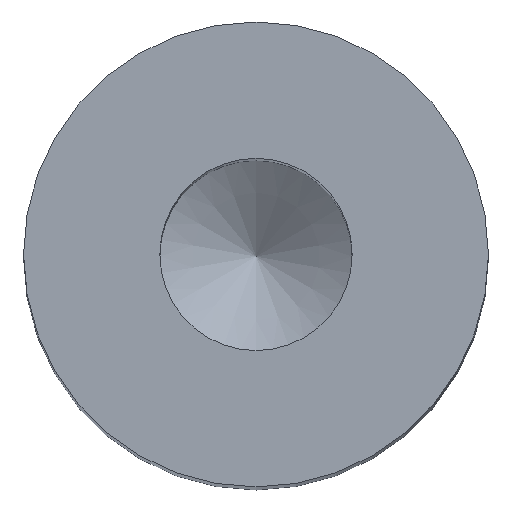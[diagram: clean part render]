
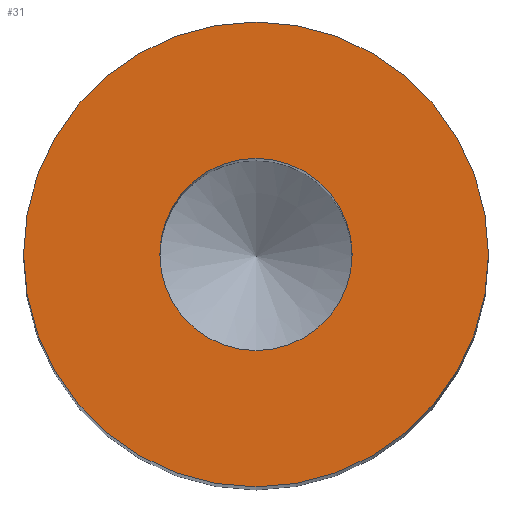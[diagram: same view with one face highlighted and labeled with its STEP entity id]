
A CAD part, top view. The second image highlights one B-rep face of the part: STEP entity #31.
In plain terms, the highlighted planar face has unit normal (0, 0, 1).
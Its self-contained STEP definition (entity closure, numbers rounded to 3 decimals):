
#31 = ADVANCED_FACE( '', ( #60, #61 ), #62, .F. );
#60 = FACE_BOUND( '', #86, .T. );
#61 = FACE_OUTER_BOUND( '', #87, .T. );
#62 = PLANE( '', #88 );
#86 = EDGE_LOOP( '', ( #108 ) );
#87 = EDGE_LOOP( '', ( #109 ) );
#88 = AXIS2_PLACEMENT_3D( '', #110, #111, #112 );
#108 = ORIENTED_EDGE( '', *, *, #134, .T. );
#109 = ORIENTED_EDGE( '', *, *, #135, .F. );
#110 = CARTESIAN_POINT( '', ( 0., 0., 38. ) );
#111 = DIRECTION( '', ( 0., 0., -1. ) );
#112 = DIRECTION( '', ( -1., 0., 0. ) );
#134 = EDGE_CURVE( '', #144, #144, #145, .T. );
#135 = EDGE_CURVE( '', #146, #146, #147, .T. );
#144 = VERTEX_POINT( '', #157 );
#145 = CIRCLE( '', #158, 2.067 );
#146 = VERTEX_POINT( '', #159 );
#147 = CIRCLE( '', #160, 5. );
#157 = CARTESIAN_POINT( '', ( 0., -2.067, 38. ) );
#158 = AXIS2_PLACEMENT_3D( '', #169, #170, #171 );
#159 = CARTESIAN_POINT( '', ( 5., 0., 38. ) );
#160 = AXIS2_PLACEMENT_3D( '', #172, #173, #174 );
#169 = CARTESIAN_POINT( '', ( 0., 0., 38. ) );
#170 = DIRECTION( '', ( 0., 0., -1. ) );
#171 = DIRECTION( '', ( 0., -1., 0. ) );
#172 = CARTESIAN_POINT( '', ( 0., 0., 38. ) );
#173 = DIRECTION( '', ( 0., 0., -1. ) );
#174 = DIRECTION( '', ( 1., 0., 0. ) );
